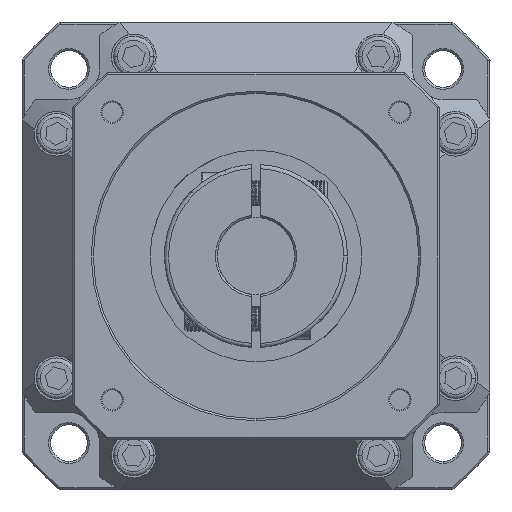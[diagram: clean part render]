
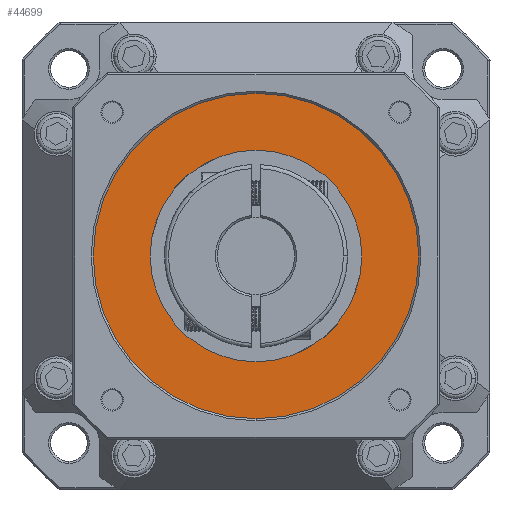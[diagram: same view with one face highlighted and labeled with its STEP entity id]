
A CAD part, front view. The second image highlights one B-rep face of the part: STEP entity #44699.
In plain terms, the highlighted planar face has unit normal (0, 1, 0).
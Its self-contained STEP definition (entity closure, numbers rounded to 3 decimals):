
#2088 = CIRCLE ( 'NONE', #44611, 40. ) ;
#4469 = VERTEX_POINT ( 'NONE', #10825 ) ;
#10825 = CARTESIAN_POINT ( 'NONE',  ( 0., -160.111, 40. ) ) ;
#12214 = EDGE_CURVE ( 'NONE', #78967, #4469, #2088, .T. ) ;
#12759 = EDGE_CURVE ( 'NONE', #44430, #29781, #55389, .T. ) ;
#14820 = DIRECTION ( 'NONE',  ( 0., 1., 0. ) ) ;
#15393 = EDGE_LOOP ( 'NONE', ( #63595, #17720 ) ) ;
#15912 = CARTESIAN_POINT ( 'NONE',  ( 0., -160.111, 0. ) ) ;
#17720 = ORIENTED_EDGE ( 'NONE', *, *, #12759, .T. ) ;
#19926 = FACE_OUTER_BOUND ( 'NONE', #32680, .T. ) ;
#21497 = CIRCLE ( 'NONE', #46903, 26. ) ;
#21560 = EDGE_CURVE ( 'NONE', #4469, #78967, #29466, .T. ) ;
#22865 = DIRECTION ( 'NONE',  ( 0., 0., 1. ) ) ;
#23870 = CARTESIAN_POINT ( 'NONE',  ( 0., -160.111, 26. ) ) ;
#24154 = ORIENTED_EDGE ( 'NONE', *, *, #12214, .T. ) ;
#26302 = DIRECTION ( 'NONE',  ( 0., -1., 0. ) ) ;
#27096 = DIRECTION ( 'NONE',  ( 0., 1., 0. ) ) ;
#29466 = CIRCLE ( 'NONE', #36983, 40. ) ;
#29781 = VERTEX_POINT ( 'NONE', #23870 ) ;
#32680 = EDGE_LOOP ( 'NONE', ( #24154, #69656 ) ) ;
#32959 = PLANE ( 'NONE',  #54080 ) ;
#34388 = CARTESIAN_POINT ( 'NONE',  ( 0., -160.111, 0. ) ) ;
#36983 = AXIS2_PLACEMENT_3D ( 'NONE', #56454, #14820, #63419 ) ;
#41404 = DIRECTION ( 'NONE',  ( 0., 0., 1. ) ) ;
#44430 = VERTEX_POINT ( 'NONE', #76837 ) ;
#44611 = AXIS2_PLACEMENT_3D ( 'NONE', #68711, #27096, #75681 ) ;
#44699 = ADVANCED_FACE ( 'NONE', ( #75357, #19926 ), #32959, .F. ) ;
#46903 = AXIS2_PLACEMENT_3D ( 'NONE', #15912, #64530, #22865 ) ;
#54080 = AXIS2_PLACEMENT_3D ( 'NONE', #67941, #26302, #74913 ) ;
#55389 = CIRCLE ( 'NONE', #84747, 26. ) ;
#56454 = CARTESIAN_POINT ( 'NONE',  ( 0., -160.111, 0. ) ) ;
#63419 = DIRECTION ( 'NONE',  ( 0., 0., -1. ) ) ;
#63595 = ORIENTED_EDGE ( 'NONE', *, *, #70624, .T. ) ;
#64530 = DIRECTION ( 'NONE',  ( 0., -1., 0. ) ) ;
#67941 = CARTESIAN_POINT ( 'NONE',  ( -40.48, -160.111, -40.48 ) ) ;
#68711 = CARTESIAN_POINT ( 'NONE',  ( 0., -160.111, 0. ) ) ;
#69656 = ORIENTED_EDGE ( 'NONE', *, *, #21560, .T. ) ;
#70624 = EDGE_CURVE ( 'NONE', #29781, #44430, #21497, .T. ) ;
#73623 = CARTESIAN_POINT ( 'NONE',  ( 0., -160.111, -40. ) ) ;
#74913 = DIRECTION ( 'NONE',  ( 1., 0., 0. ) ) ;
#75357 = FACE_BOUND ( 'NONE', #15393, .T. ) ;
#75681 = DIRECTION ( 'NONE',  ( 0., 0., -1. ) ) ;
#76837 = CARTESIAN_POINT ( 'NONE',  ( 0., -160.111, -26. ) ) ;
#78967 = VERTEX_POINT ( 'NONE', #73623 ) ;
#83005 = DIRECTION ( 'NONE',  ( 0., -1., 0. ) ) ;
#84747 = AXIS2_PLACEMENT_3D ( 'NONE', #34388, #83005, #41404 ) ;
